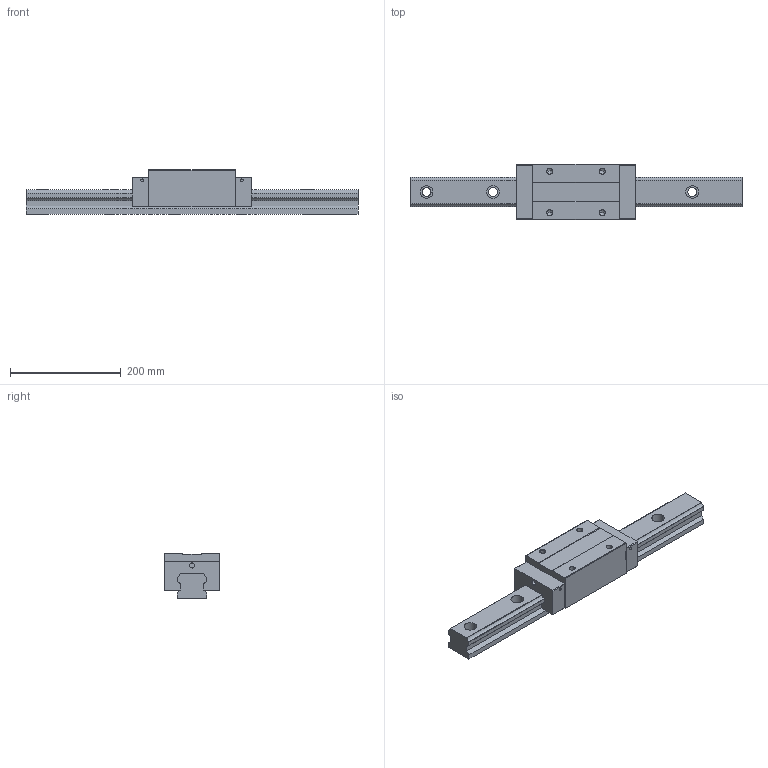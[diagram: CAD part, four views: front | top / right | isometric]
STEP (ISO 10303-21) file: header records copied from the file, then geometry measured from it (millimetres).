
FILE_DESCRIPTION (( 'STEP AP203' ), '1' );
FILE_NAME ('TRH55VE-SZ.STEP', '2024-07-10T02:42:28', ( '' ), ( '' ), 'SwSTEP 2.0', 'SolidWorks 2022', '' );
FILE_SCHEMA (( 'CONFIG_CONTROL_DESIGN' ));
Length unit declared in the file: millimetre
Products named in the file (1): TRH55VE-SZ
Bounding box: 600 x 100 x 80 mm (x, y, z)
Volume: 2225389.4 mm3; surface area: 235193.6 mm2
Topology: 2 solids, 2 shells, 175 faces, 460 edges, 296 vertices
Faces by surface type: plane 83, cylinder 76, cone 16
Entity records: 5453 total; most frequent: DIRECTION 964, CARTESIAN_POINT 924, ORIENTED_EDGE 904, EDGE_CURVE 452, AXIS2_PLACEMENT_3D 336, VERTEX_POINT 296, VECTOR 292, LINE 292
